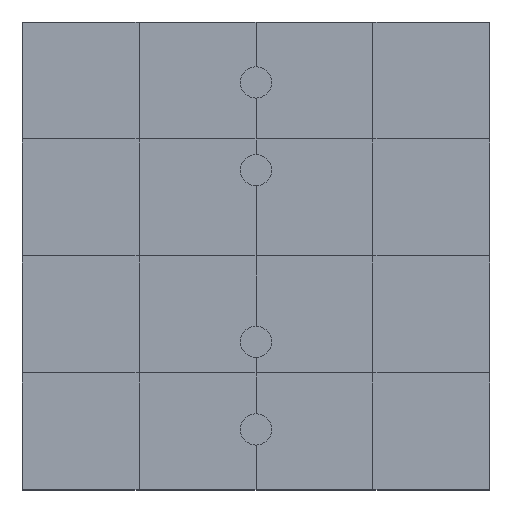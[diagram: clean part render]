
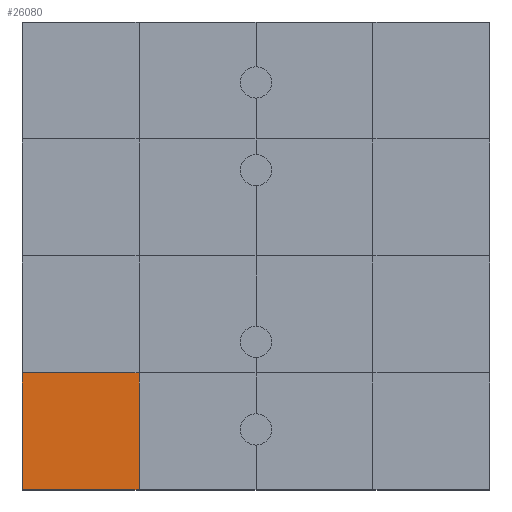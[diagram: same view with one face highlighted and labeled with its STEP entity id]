
A CAD part, top view. The second image highlights one B-rep face of the part: STEP entity #26080.
In plain terms, the highlighted planar face has unit normal (0, 0, 1).
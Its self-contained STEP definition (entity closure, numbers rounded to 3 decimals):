
#25891 = VERTEX_POINT('',#25892);
#25892 = CARTESIAN_POINT('',(0.,0.,1.5));
#25899 = PLANE('',#25900);
#25900 = AXIS2_PLACEMENT_3D('',#25901,#25902,#25903);
#25901 = CARTESIAN_POINT('',(0.,0.,0.));
#25902 = DIRECTION('',(1.,0.,-0.));
#25903 = DIRECTION('',(0.,0.,1.));
#25911 = PLANE('',#25912);
#25912 = AXIS2_PLACEMENT_3D('',#25913,#25914,#25915);
#25913 = CARTESIAN_POINT('',(0.,0.,0.));
#25914 = DIRECTION('',(-0.,1.,0.));
#25915 = DIRECTION('',(0.,0.,1.));
#25952 = VERTEX_POINT('',#25953);
#25953 = CARTESIAN_POINT('',(0.,3.,1.5));
#25979 = EDGE_CURVE('',#25891,#25952,#25980,.T.);
#25980 = SURFACE_CURVE('',#25981,(#25985,#25992),.PCURVE_S1.);
#25981 = LINE('',#25982,#25983);
#25982 = CARTESIAN_POINT('',(0.,0.,1.5));
#25983 = VECTOR('',#25984,1.);
#25984 = DIRECTION('',(-0.,1.,0.));
#25985 = PCURVE('',#25899,#25986);
#25986 = DEFINITIONAL_REPRESENTATION('',(#25987),#25991);
#25987 = LINE('',#25988,#25989);
#25988 = CARTESIAN_POINT('',(1.5,0.));
#25989 = VECTOR('',#25990,1.);
#25990 = DIRECTION('',(0.,-1.));
#25991 = ( GEOMETRIC_REPRESENTATION_CONTEXT(2) 
PARAMETRIC_REPRESENTATION_CONTEXT() REPRESENTATION_CONTEXT('2D SPACE',''
  ) );
#25992 = PCURVE('',#25993,#25998);
#25993 = PLANE('',#25994);
#25994 = AXIS2_PLACEMENT_3D('',#25995,#25996,#25997);
#25995 = CARTESIAN_POINT('',(0.,0.,1.5));
#25996 = DIRECTION('',(0.,0.,1.));
#25997 = DIRECTION('',(1.,0.,-0.));
#25998 = DEFINITIONAL_REPRESENTATION('',(#25999),#26003);
#25999 = LINE('',#26000,#26001);
#26000 = CARTESIAN_POINT('',(0.,0.));
#26001 = VECTOR('',#26002,1.);
#26002 = DIRECTION('',(0.,1.));
#26003 = ( GEOMETRIC_REPRESENTATION_CONTEXT(2) 
PARAMETRIC_REPRESENTATION_CONTEXT() REPRESENTATION_CONTEXT('2D SPACE',''
  ) );
#26032 = EDGE_CURVE('',#25891,#26033,#26035,.T.);
#26033 = VERTEX_POINT('',#26034);
#26034 = CARTESIAN_POINT('',(3.,0.,1.5));
#26035 = SURFACE_CURVE('',#26036,(#26040,#26047),.PCURVE_S1.);
#26036 = LINE('',#26037,#26038);
#26037 = CARTESIAN_POINT('',(0.,0.,1.5));
#26038 = VECTOR('',#26039,1.);
#26039 = DIRECTION('',(1.,0.,-0.));
#26040 = PCURVE('',#25911,#26041);
#26041 = DEFINITIONAL_REPRESENTATION('',(#26042),#26046);
#26042 = LINE('',#26043,#26044);
#26043 = CARTESIAN_POINT('',(1.5,0.));
#26044 = VECTOR('',#26045,1.);
#26045 = DIRECTION('',(0.,1.));
#26046 = ( GEOMETRIC_REPRESENTATION_CONTEXT(2) 
PARAMETRIC_REPRESENTATION_CONTEXT() REPRESENTATION_CONTEXT('2D SPACE',''
  ) );
#26047 = PCURVE('',#25993,#26048);
#26048 = DEFINITIONAL_REPRESENTATION('',(#26049),#26053);
#26049 = LINE('',#26050,#26051);
#26050 = CARTESIAN_POINT('',(0.,0.));
#26051 = VECTOR('',#26052,1.);
#26052 = DIRECTION('',(1.,0.));
#26053 = ( GEOMETRIC_REPRESENTATION_CONTEXT(2) 
PARAMETRIC_REPRESENTATION_CONTEXT() REPRESENTATION_CONTEXT('2D SPACE',''
  ) );
#26080 = ADVANCED_FACE('',(#26081),#25993,.T.);
#26081 = FACE_BOUND('',#26082,.T.);
#26082 = EDGE_LOOP('',(#26083,#26084,#26085,#26113));
#26083 = ORIENTED_EDGE('',*,*,#25979,.F.);
#26084 = ORIENTED_EDGE('',*,*,#26032,.T.);
#26085 = ORIENTED_EDGE('',*,*,#26086,.T.);
#26086 = EDGE_CURVE('',#26033,#26087,#26089,.T.);
#26087 = VERTEX_POINT('',#26088);
#26088 = CARTESIAN_POINT('',(3.,3.,1.5));
#26089 = SURFACE_CURVE('',#26090,(#26094,#26101),.PCURVE_S1.);
#26090 = LINE('',#26091,#26092);
#26091 = CARTESIAN_POINT('',(3.,0.,1.5));
#26092 = VECTOR('',#26093,1.);
#26093 = DIRECTION('',(-0.,1.,0.));
#26094 = PCURVE('',#25993,#26095);
#26095 = DEFINITIONAL_REPRESENTATION('',(#26096),#26100);
#26096 = LINE('',#26097,#26098);
#26097 = CARTESIAN_POINT('',(3.,0.));
#26098 = VECTOR('',#26099,1.);
#26099 = DIRECTION('',(0.,1.));
#26100 = ( GEOMETRIC_REPRESENTATION_CONTEXT(2) 
PARAMETRIC_REPRESENTATION_CONTEXT() REPRESENTATION_CONTEXT('2D SPACE',''
  ) );
#26101 = PCURVE('',#26102,#26107);
#26102 = PLANE('',#26103);
#26103 = AXIS2_PLACEMENT_3D('',#26104,#26105,#26106);
#26104 = CARTESIAN_POINT('',(3.,0.,1.5));
#26105 = DIRECTION('',(0.,0.,1.));
#26106 = DIRECTION('',(1.,0.,-0.));
#26107 = DEFINITIONAL_REPRESENTATION('',(#26108),#26112);
#26108 = LINE('',#26109,#26110);
#26109 = CARTESIAN_POINT('',(0.,0.));
#26110 = VECTOR('',#26111,1.);
#26111 = DIRECTION('',(0.,1.));
#26112 = ( GEOMETRIC_REPRESENTATION_CONTEXT(2) 
PARAMETRIC_REPRESENTATION_CONTEXT() REPRESENTATION_CONTEXT('2D SPACE',''
  ) );
#26113 = ORIENTED_EDGE('',*,*,#26114,.F.);
#26114 = EDGE_CURVE('',#25952,#26087,#26115,.T.);
#26115 = SURFACE_CURVE('',#26116,(#26120,#26127),.PCURVE_S1.);
#26116 = LINE('',#26117,#26118);
#26117 = CARTESIAN_POINT('',(0.,3.,1.5));
#26118 = VECTOR('',#26119,1.);
#26119 = DIRECTION('',(1.,0.,-0.));
#26120 = PCURVE('',#25993,#26121);
#26121 = DEFINITIONAL_REPRESENTATION('',(#26122),#26126);
#26122 = LINE('',#26123,#26124);
#26123 = CARTESIAN_POINT('',(0.,3.));
#26124 = VECTOR('',#26125,1.);
#26125 = DIRECTION('',(1.,0.));
#26126 = ( GEOMETRIC_REPRESENTATION_CONTEXT(2) 
PARAMETRIC_REPRESENTATION_CONTEXT() REPRESENTATION_CONTEXT('2D SPACE',''
  ) );
#26127 = PCURVE('',#26128,#26133);
#26128 = PLANE('',#26129);
#26129 = AXIS2_PLACEMENT_3D('',#26130,#26131,#26132);
#26130 = CARTESIAN_POINT('',(0.,3.,1.5));
#26131 = DIRECTION('',(0.,0.,1.));
#26132 = DIRECTION('',(1.,0.,-0.));
#26133 = DEFINITIONAL_REPRESENTATION('',(#26134),#26138);
#26134 = LINE('',#26135,#26136);
#26135 = CARTESIAN_POINT('',(0.,0.));
#26136 = VECTOR('',#26137,1.);
#26137 = DIRECTION('',(1.,0.));
#26138 = ( GEOMETRIC_REPRESENTATION_CONTEXT(2) 
PARAMETRIC_REPRESENTATION_CONTEXT() REPRESENTATION_CONTEXT('2D SPACE',''
  ) );
